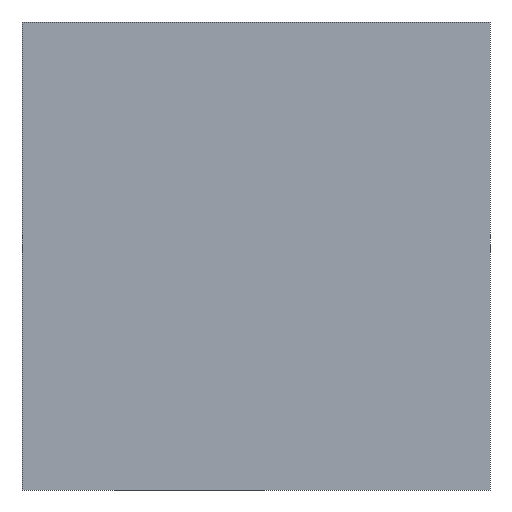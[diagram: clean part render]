
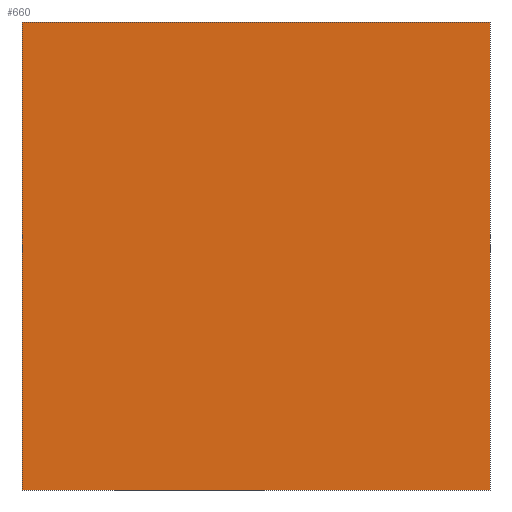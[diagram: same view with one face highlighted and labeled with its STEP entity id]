
A CAD part, front view. The second image highlights one B-rep face of the part: STEP entity #660.
In plain terms, the highlighted planar face has unit normal (0, -1, 0).
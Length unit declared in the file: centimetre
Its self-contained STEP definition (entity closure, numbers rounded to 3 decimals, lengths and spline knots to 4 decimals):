
#7 = VERTEX_POINT ( 'NONE', #408 ) ;
#15 = VERTEX_POINT ( 'NONE', #79 ) ;
#23 = EDGE_CURVE ( 'NONE', #15, #659, #135, .T. ) ;
#35 = DIRECTION ( 'NONE',  ( 1., 0., 0. ) ) ;
#52 = CARTESIAN_POINT ( 'NONE',  ( 0., 0., 1000. ) ) ;
#65 = DIRECTION ( 'NONE',  ( 0., 0., 1. ) ) ;
#66 = VECTOR ( 'NONE', #315, 100. ) ;
#68 = CARTESIAN_POINT ( 'NONE',  ( 0., 0., 1000. ) ) ;
#79 = CARTESIAN_POINT ( 'NONE',  ( 0., 0., 0. ) ) ;
#83 = EDGE_CURVE ( 'NONE', #7, #659, #456, .T. ) ;
#109 = CARTESIAN_POINT ( 'NONE',  ( 0., 0., 1000. ) ) ;
#110 = LINE ( 'NONE', #638, #66 ) ;
#116 = DIRECTION ( 'NONE',  ( 0., 1., 0. ) ) ;
#118 = CARTESIAN_POINT ( 'NONE',  ( 1000., 0., 0. ) ) ;
#135 = LINE ( 'NONE', #342, #596 ) ;
#148 = EDGE_LOOP ( 'NONE', ( #283, #672, #556, #603 ) ) ;
#189 = VERTEX_POINT ( 'NONE', #109 ) ;
#215 = LINE ( 'NONE', #52, #554 ) ;
#283 = ORIENTED_EDGE ( 'NONE', *, *, #23, .T. ) ;
#315 = DIRECTION ( 'NONE',  ( 0., 0., -1. ) ) ;
#327 = PLANE ( 'NONE',  #451 ) ;
#342 = CARTESIAN_POINT ( 'NONE',  ( 0., 0., 0. ) ) ;
#373 = DIRECTION ( 'NONE',  ( 1., 0., 0. ) ) ;
#408 = CARTESIAN_POINT ( 'NONE',  ( 1000., 0., 1000. ) ) ;
#451 = AXIS2_PLACEMENT_3D ( 'NONE', #68, #116, #65 ) ;
#453 = EDGE_CURVE ( 'NONE', #189, #15, #110, .T. ) ;
#456 = LINE ( 'NONE', #557, #484 ) ;
#484 = VECTOR ( 'NONE', #623, 100. ) ;
#515 = EDGE_CURVE ( 'NONE', #189, #7, #215, .T. ) ;
#544 = FACE_OUTER_BOUND ( 'NONE', #148, .T. ) ;
#554 = VECTOR ( 'NONE', #373, 100. ) ;
#556 = ORIENTED_EDGE ( 'NONE', *, *, #515, .F. ) ;
#557 = CARTESIAN_POINT ( 'NONE',  ( 1000., 0., 1000. ) ) ;
#596 = VECTOR ( 'NONE', #35, 100. ) ;
#603 = ORIENTED_EDGE ( 'NONE', *, *, #453, .T. ) ;
#623 = DIRECTION ( 'NONE',  ( 0., 0., -1. ) ) ;
#638 = CARTESIAN_POINT ( 'NONE',  ( 0., 0., 1000. ) ) ;
#659 = VERTEX_POINT ( 'NONE', #118 ) ;
#660 = ADVANCED_FACE ( 'NONE', ( #544 ), #327, .F. ) ;
#672 = ORIENTED_EDGE ( 'NONE', *, *, #83, .F. ) ;
